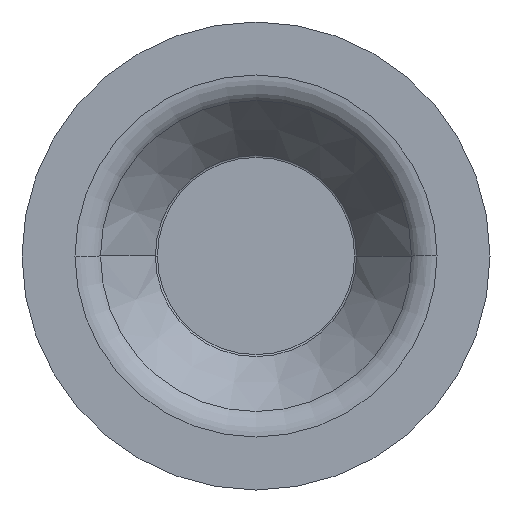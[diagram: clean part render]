
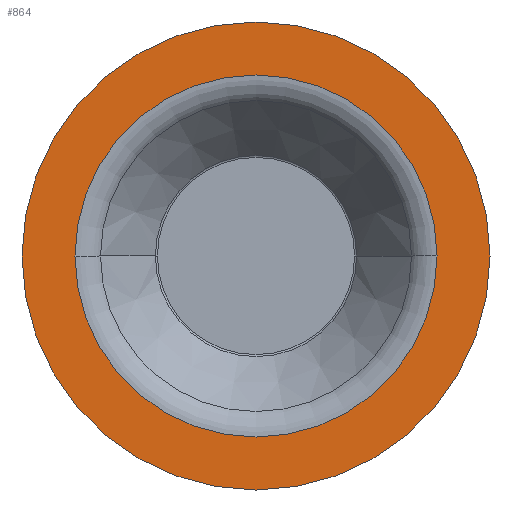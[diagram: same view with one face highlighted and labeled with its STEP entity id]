
A CAD part, front view. The second image highlights one B-rep face of the part: STEP entity #864.
In plain terms, the highlighted planar face has unit normal (0, -1, 0).
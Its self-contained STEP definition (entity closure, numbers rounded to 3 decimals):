
#13 = VERTEX_POINT ( 'NONE', #730 ) ;
#121 = DIRECTION ( 'NONE',  ( -1., 0., 0. ) ) ;
#134 = CARTESIAN_POINT ( 'NONE',  ( 0., -22., 0. ) ) ;
#142 = CARTESIAN_POINT ( 'NONE',  ( -36.744, -22., 0. ) ) ;
#154 = VERTEX_POINT ( 'NONE', #162 ) ;
#158 = DIRECTION ( 'NONE',  ( 0., -1., 0. ) ) ;
#162 = CARTESIAN_POINT ( 'NONE',  ( -47.5, -22., 0. ) ) ;
#202 = CARTESIAN_POINT ( 'NONE',  ( 0., -22., 0. ) ) ;
#308 = DIRECTION ( 'NONE',  ( 1., 0., 0. ) ) ;
#347 = EDGE_LOOP ( 'NONE', ( #1338, #383 ) ) ;
#356 = VERTEX_POINT ( 'NONE', #142 ) ;
#372 = CARTESIAN_POINT ( 'NONE',  ( 0., -22., 0. ) ) ;
#383 = ORIENTED_EDGE ( 'NONE', *, *, #1572, .F. ) ;
#387 = CARTESIAN_POINT ( 'NONE',  ( 47.5, -22., 0. ) ) ;
#396 = DIRECTION ( 'NONE',  ( -1., 0., 0. ) ) ;
#408 = DIRECTION ( 'NONE',  ( 1., 0., 0. ) ) ;
#416 = FACE_BOUND ( 'NONE', #347, .T. ) ;
#451 = EDGE_CURVE ( 'NONE', #356, #796, #976, .T. ) ;
#474 = EDGE_CURVE ( 'NONE', #13, #154, #1054, .T. ) ;
#566 = AXIS2_PLACEMENT_3D ( 'NONE', #784, #779, #408 ) ;
#622 = DIRECTION ( 'NONE',  ( 0., -1., 0. ) ) ;
#673 = CIRCLE ( 'NONE', #566, 47.5 ) ;
#730 = CARTESIAN_POINT ( 'NONE',  ( 47.5, -22., 0. ) ) ;
#748 = AXIS2_PLACEMENT_3D ( 'NONE', #387, #158, #1432 ) ;
#779 = DIRECTION ( 'NONE',  ( 0., -1., 0. ) ) ;
#784 = CARTESIAN_POINT ( 'NONE',  ( 0., -22., 0. ) ) ;
#796 = VERTEX_POINT ( 'NONE', #1307 ) ;
#864 = ADVANCED_FACE ( 'NONE', ( #416, #1546 ), #1175, .T. ) ;
#976 = CIRCLE ( 'NONE', #1465, 36.744 ) ;
#1054 = CIRCLE ( 'NONE', #1359, 47.5 ) ;
#1075 = CIRCLE ( 'NONE', #1298, 36.744 ) ;
#1175 = PLANE ( 'NONE',  #748 ) ;
#1219 = DIRECTION ( 'NONE',  ( 0., -1., 0. ) ) ;
#1234 = EDGE_CURVE ( 'NONE', #154, #13, #673, .T. ) ;
#1298 = AXIS2_PLACEMENT_3D ( 'NONE', #372, #622, #121 ) ;
#1307 = CARTESIAN_POINT ( 'NONE',  ( 36.744, -22., 0. ) ) ;
#1338 = ORIENTED_EDGE ( 'NONE', *, *, #451, .F. ) ;
#1359 = AXIS2_PLACEMENT_3D ( 'NONE', #202, #1219, #308 ) ;
#1432 = DIRECTION ( 'NONE',  ( 1., 0., 0. ) ) ;
#1444 = ORIENTED_EDGE ( 'NONE', *, *, #1234, .T. ) ;
#1465 = AXIS2_PLACEMENT_3D ( 'NONE', #134, #1554, #396 ) ;
#1535 = EDGE_LOOP ( 'NONE', ( #1650, #1444 ) ) ;
#1546 = FACE_OUTER_BOUND ( 'NONE', #1535, .T. ) ;
#1554 = DIRECTION ( 'NONE',  ( 0., -1., 0. ) ) ;
#1572 = EDGE_CURVE ( 'NONE', #796, #356, #1075, .T. ) ;
#1650 = ORIENTED_EDGE ( 'NONE', *, *, #474, .T. ) ;
